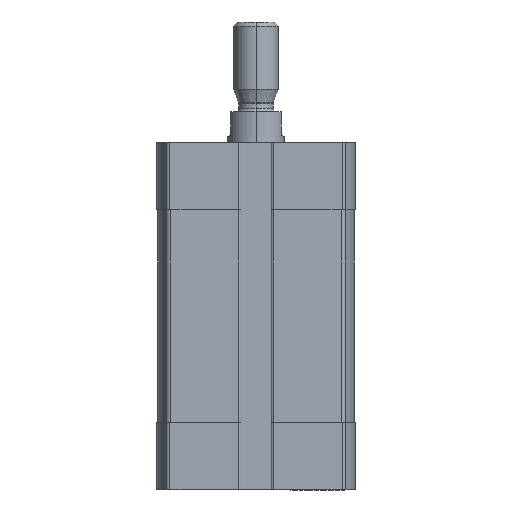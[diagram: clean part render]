
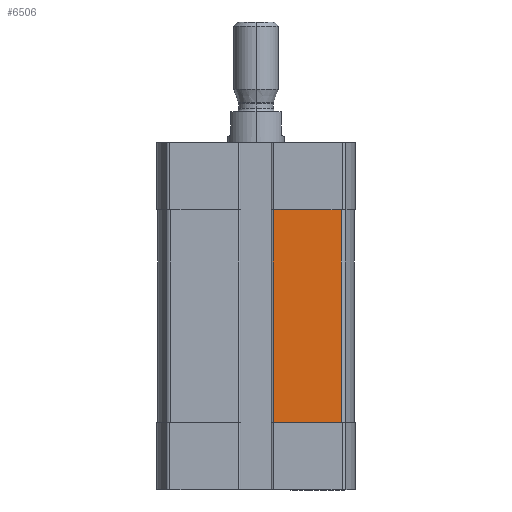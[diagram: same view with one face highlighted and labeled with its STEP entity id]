
A CAD part, left-side view. The second image highlights one B-rep face of the part: STEP entity #6506.
In plain terms, the highlighted planar face has unit normal (-1, 0, 0).
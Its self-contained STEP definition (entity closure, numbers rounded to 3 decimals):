
#177 = EDGE_CURVE ( 'NONE', #1979, #2601, #6167, .T. ) ;
#577 = ORIENTED_EDGE ( 'NONE', *, *, #2199, .T. ) ;
#681 = PLANE ( 'NONE',  #11978 ) ;
#1344 = CARTESIAN_POINT ( 'NONE',  ( -17.5, -3.1, -50. ) ) ;
#1708 = DIRECTION ( 'NONE',  ( 0., 0., 1. ) ) ;
#1979 = VERTEX_POINT ( 'NONE', #10421 ) ;
#2199 = EDGE_CURVE ( 'NONE', #5084, #1979, #12360, .T. ) ;
#2240 = FACE_OUTER_BOUND ( 'NONE', #10753, .T. ) ;
#2601 = VERTEX_POINT ( 'NONE', #13136 ) ;
#2861 = VECTOR ( 'NONE', #4131, 1000. ) ;
#3202 = LINE ( 'NONE', #10243, #2861 ) ;
#3435 = VECTOR ( 'NONE', #4149, 1000. ) ;
#4015 = CARTESIAN_POINT ( 'NONE',  ( -17.5, -3.1, -50. ) ) ;
#4131 = DIRECTION ( 'NONE',  ( 0., 1., 0. ) ) ;
#4149 = DIRECTION ( 'NONE',  ( 0., 0., 1. ) ) ;
#4443 = CARTESIAN_POINT ( 'NONE',  ( -17.5, -3.1, -50. ) ) ;
#4529 = VECTOR ( 'NONE', #11610, 1000. ) ;
#4986 = ORIENTED_EDGE ( 'NONE', *, *, #6954, .T. ) ;
#5084 = VERTEX_POINT ( 'NONE', #1344 ) ;
#6167 = LINE ( 'NONE', #12627, #3435 ) ;
#6506 = ADVANCED_FACE ( 'NONE', ( #2240 ), #681, .T. ) ;
#6954 = EDGE_CURVE ( 'NONE', #2601, #8780, #3202, .T. ) ;
#7858 = DIRECTION ( 'NONE',  ( -1., 0., 0. ) ) ;
#8780 = VERTEX_POINT ( 'NONE', #10165 ) ;
#8891 = VECTOR ( 'NONE', #13165, 1000. ) ;
#9709 = EDGE_CURVE ( 'NONE', #5084, #8780, #11331, .T. ) ;
#9722 = ORIENTED_EDGE ( 'NONE', *, *, #9709, .F. ) ;
#9866 = CARTESIAN_POINT ( 'NONE',  ( -17.5, -3.1, -50. ) ) ;
#10165 = CARTESIAN_POINT ( 'NONE',  ( -17.5, -3.1, -12. ) ) ;
#10243 = CARTESIAN_POINT ( 'NONE',  ( -17.5, 0., -12. ) ) ;
#10421 = CARTESIAN_POINT ( 'NONE',  ( -17.5, -15.253, -50. ) ) ;
#10753 = EDGE_LOOP ( 'NONE', ( #577, #10871, #4986, #9722 ) ) ;
#10871 = ORIENTED_EDGE ( 'NONE', *, *, #177, .T. ) ;
#11331 = LINE ( 'NONE', #4015, #8891 ) ;
#11610 = DIRECTION ( 'NONE',  ( 0., -1., 0. ) ) ;
#11978 = AXIS2_PLACEMENT_3D ( 'NONE', #9866, #7858, #1708 ) ;
#12360 = LINE ( 'NONE', #4443, #4529 ) ;
#12627 = CARTESIAN_POINT ( 'NONE',  ( -17.5, -15.253, -50. ) ) ;
#13136 = CARTESIAN_POINT ( 'NONE',  ( -17.5, -15.253, -12. ) ) ;
#13165 = DIRECTION ( 'NONE',  ( 0., 0., 1. ) ) ;
